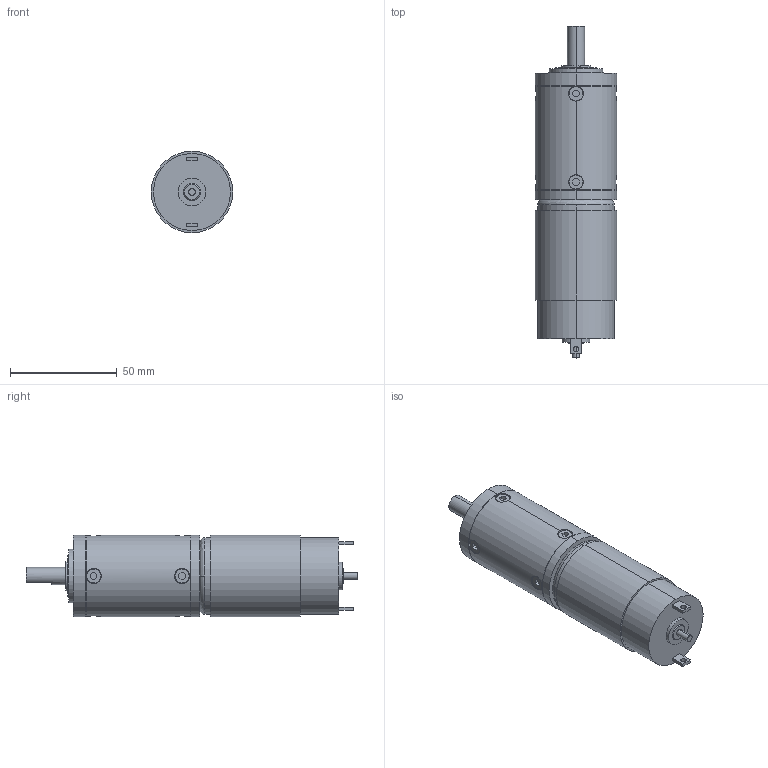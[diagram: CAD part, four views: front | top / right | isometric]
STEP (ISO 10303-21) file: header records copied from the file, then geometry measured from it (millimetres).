
FILE_DESCRIPTION((''),' ');
FILE_NAME('DSMP380_4.stp',' ',('R. Lindner'),('MSW GmbH'),' ','ACIS 14.0',' ');
FILE_SCHEMA(('automotive_design'));
Length unit declared in the file: inch
Products named in the file (175): DSMP380_4
Bounding box: 38 x 155.27 x 38 mm (x, y, z)
Surface area: 20118.9 mm2 (no closed solid volume)
Topology: 0 solids, 176 shells, 176 faces, 840 edges, 840 vertices
Faces by surface type: plane 98, cylinder 70, cone 6, bspline 2
Entity records: 15578 total; most frequent: CARTESIAN_POINT 3139, DIRECTION 1732, ORIENTED_EDGE 840, EDGE_CURVE 840, VERTEX_POINT 840, AXIS2_PLACEMENT_3D 593, LINE 546, VECTOR 546
